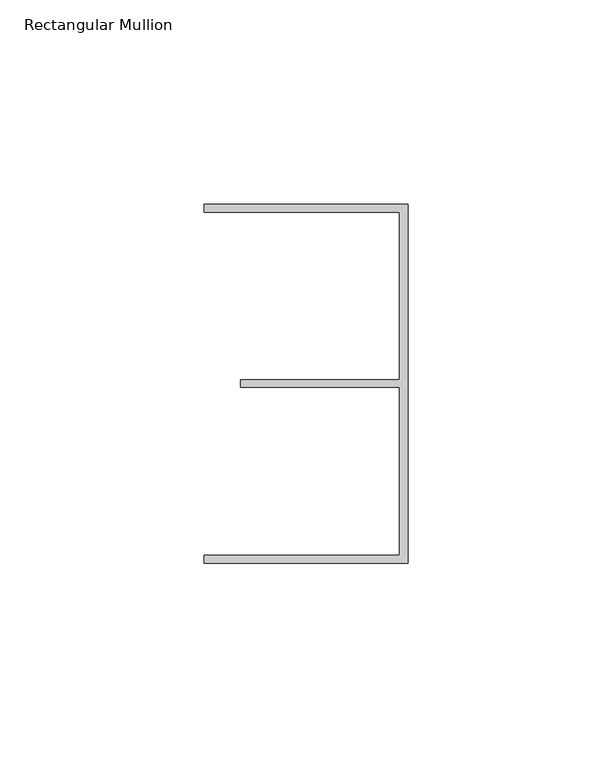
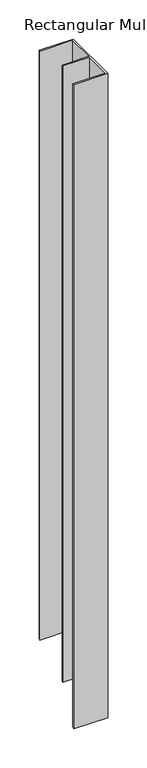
"""IFC4 building model written with IfcOpenShell, lengths in millimetres: member geometry, Rectangular Mullion : FLOOR_TRACK_CAP 94-KLS00-P80-SD41ALU."""

from ifc_helpers import new_model, si_unit, origin, place, context, project, spatial, faceted_brep, source, transform, mapped, element, save


def rectangular_mullion_606d2f1e(model_context):
    return source(origin(), model_context, "Body", "Brep", [
        faceted_brep([(0.0, -44.0, 0.0), (0.0, 44.0, 0.0), (-50.0, 44.0, 0.0), (-50.0, 42.0, 0.0), (-2.0, 42.0, 0.0), (-2.0, 0.9316478, 0.0), (-41.0, 0.9316478, 0.0), (-41.0, -0.9316478, 0.0), (-2.0, -0.9316478, 0.0), (-2.0, -42.0, 0.0), (-50.0, -42.0, 0.0), (-50.0, -44.0, 0.0), (0.0, -44.0, -1004.4), (0.0, 44.0, -916.4), (-50.0, 44.0, -916.4), (-50.0, 42.0, -918.4), (-2.0, 42.0, -918.4), (-2.0, 0.9316478, -959.4683522), (-41.0, 0.9316478, -959.4683522), (-41.0, -0.9316478, -961.3316478), (-2.0, -0.9316478, -961.3316478), (-2.0, -42.0, -1002.4), (-50.0, -42.0, -1002.4), (-50.0, -44.0, -1004.4)], [[[0, 1, 2, 3, 4, 5, 6, 7, 8, 9, 10, 11]], [[1, 0, 12, 13]], [[2, 1, 13, 14]], [[3, 2, 14, 15]], [[4, 3, 15, 16]], [[5, 4, 16, 17]], [[6, 5, 17, 18]], [[7, 6, 18, 19]], [[8, 7, 19, 20]], [[9, 8, 20, 21]], [[10, 9, 21, 22]], [[11, 10, 22, 23]], [[0, 11, 23, 12]], [[12, 23, 22, 21, 20, 19, 18, 17, 16, 15, 14, 13]]]),
    ])


if __name__ == "__main__":
    model = new_model("IFC4")
    model_context = context("Model", 3, world=origin())
    ifc_project = project(units=[si_unit("LENGTHUNIT", "METRE", prefix="MILLI")], contexts=[model_context])
    site = spatial("IfcSite", under=ifc_project)
    building = spatial("IfcBuilding", under=site)
    placement = place(None, origin())
    rectangular_mullion_shape = rectangular_mullion_606d2f1e(model_context)
    element("IfcMember", 1, ObjectType="Rectangular Mullion : FLOOR_TRACK_CAP 94-KLS00-P80-SD41ALU", at=placement, inside=building, context=model_context, shape_type="MappedRepresentation", body=[
        mapped(rectangular_mullion_shape, transform((0.0, 0.0, 0.0), x_axis=(1.0, 0.0, 0.0), y_axis=(0.0, 1.0, 0.0), z_axis=(0.0, 0.0, 1.0))),
    ])
    save(model, "model.ifc")
